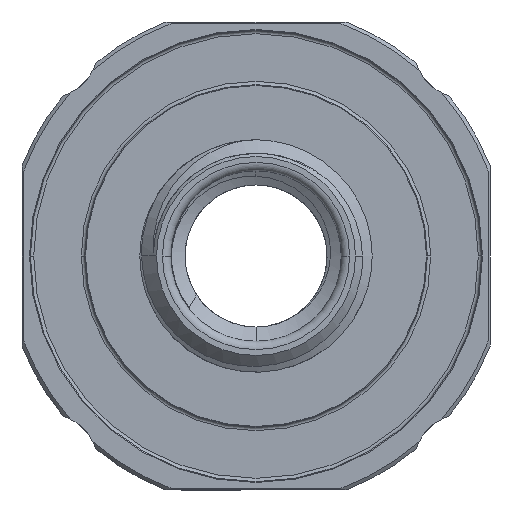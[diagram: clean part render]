
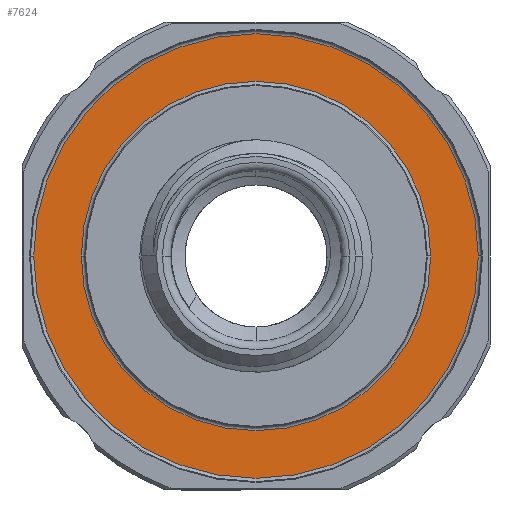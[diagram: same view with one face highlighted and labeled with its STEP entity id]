
A CAD part, front view. The second image highlights one B-rep face of the part: STEP entity #7624.
In plain terms, the highlighted planar face has unit normal (0, -1, 0).
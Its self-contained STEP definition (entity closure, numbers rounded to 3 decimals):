
#141 = DIRECTION ( 'NONE',  ( 0., 1., 0. ) ) ;
#159 = CARTESIAN_POINT ( 'NONE',  ( 13.3, 26.9, 0. ) ) ;
#188 = ORIENTED_EDGE ( 'NONE', *, *, #5242, .T. ) ;
#1061 = EDGE_LOOP ( 'NONE', ( #6766, #3155 ) ) ;
#1133 = DIRECTION ( 'NONE',  ( 0., 1., 0. ) ) ;
#1815 = DIRECTION ( 'NONE',  ( -1., 0., 0. ) ) ;
#2313 = CARTESIAN_POINT ( 'NONE',  ( 10.45, 26.9, 0. ) ) ;
#2526 = FACE_BOUND ( 'NONE', #5645, .T. ) ;
#2590 = DIRECTION ( 'NONE',  ( -1., 0., 0. ) ) ;
#2720 = VERTEX_POINT ( 'NONE', #6273 ) ;
#3155 = ORIENTED_EDGE ( 'NONE', *, *, #5665, .F. ) ;
#3163 = DIRECTION ( 'NONE',  ( 1., 0., 0. ) ) ;
#3748 = DIRECTION ( 'NONE',  ( -1., 0., 0. ) ) ;
#4014 = CARTESIAN_POINT ( 'NONE',  ( -10.45, 26.9, 0. ) ) ;
#4074 = VERTEX_POINT ( 'NONE', #2313 ) ;
#4103 = CIRCLE ( 'NONE', #4249, 13.3 ) ;
#4249 = AXIS2_PLACEMENT_3D ( 'NONE', #5397, #141, #3748 ) ;
#4621 = EDGE_CURVE ( 'NONE', #2720, #8750, #4712, .T. ) ;
#4712 = CIRCLE ( 'NONE', #5030, 13.3 ) ;
#4852 = DIRECTION ( 'NONE',  ( -1., 0., 0. ) ) ;
#4882 = DIRECTION ( 'NONE',  ( 0., 1., 0. ) ) ;
#5030 = AXIS2_PLACEMENT_3D ( 'NONE', #7115, #4882, #2590 ) ;
#5242 = EDGE_CURVE ( 'NONE', #4074, #5349, #6577, .T. ) ;
#5349 = VERTEX_POINT ( 'NONE', #4014 ) ;
#5397 = CARTESIAN_POINT ( 'NONE',  ( 0., 26.9, 0. ) ) ;
#5498 = CIRCLE ( 'NONE', #9554, 10.45 ) ;
#5589 = ORIENTED_EDGE ( 'NONE', *, *, #6018, .T. ) ;
#5645 = EDGE_LOOP ( 'NONE', ( #5589, #188 ) ) ;
#5665 = EDGE_CURVE ( 'NONE', #8750, #2720, #4103, .T. ) ;
#6018 = EDGE_CURVE ( 'NONE', #5349, #4074, #5498, .T. ) ;
#6139 = FACE_OUTER_BOUND ( 'NONE', #1061, .T. ) ;
#6273 = CARTESIAN_POINT ( 'NONE',  ( -13.3, 26.9, 0. ) ) ;
#6278 = PLANE ( 'NONE',  #7669 ) ;
#6577 = CIRCLE ( 'NONE', #9383, 10.45 ) ;
#6766 = ORIENTED_EDGE ( 'NONE', *, *, #4621, .F. ) ;
#6940 = CARTESIAN_POINT ( 'NONE',  ( 0., 26.9, 0. ) ) ;
#6957 = DIRECTION ( 'NONE',  ( 0., -1., 0. ) ) ;
#6986 = DIRECTION ( 'NONE',  ( 0., 1., 0. ) ) ;
#7115 = CARTESIAN_POINT ( 'NONE',  ( 0., 26.9, 0. ) ) ;
#7624 = ADVANCED_FACE ( 'NONE', ( #2526, #6139 ), #6278, .T. ) ;
#7669 = AXIS2_PLACEMENT_3D ( 'NONE', #9262, #6957, #3163 ) ;
#7709 = CARTESIAN_POINT ( 'NONE',  ( 0., 26.9, 0. ) ) ;
#8750 = VERTEX_POINT ( 'NONE', #159 ) ;
#9262 = CARTESIAN_POINT ( 'NONE',  ( -10.45, 26.9, 0. ) ) ;
#9383 = AXIS2_PLACEMENT_3D ( 'NONE', #7709, #1133, #4852 ) ;
#9554 = AXIS2_PLACEMENT_3D ( 'NONE', #6940, #6986, #1815 ) ;
